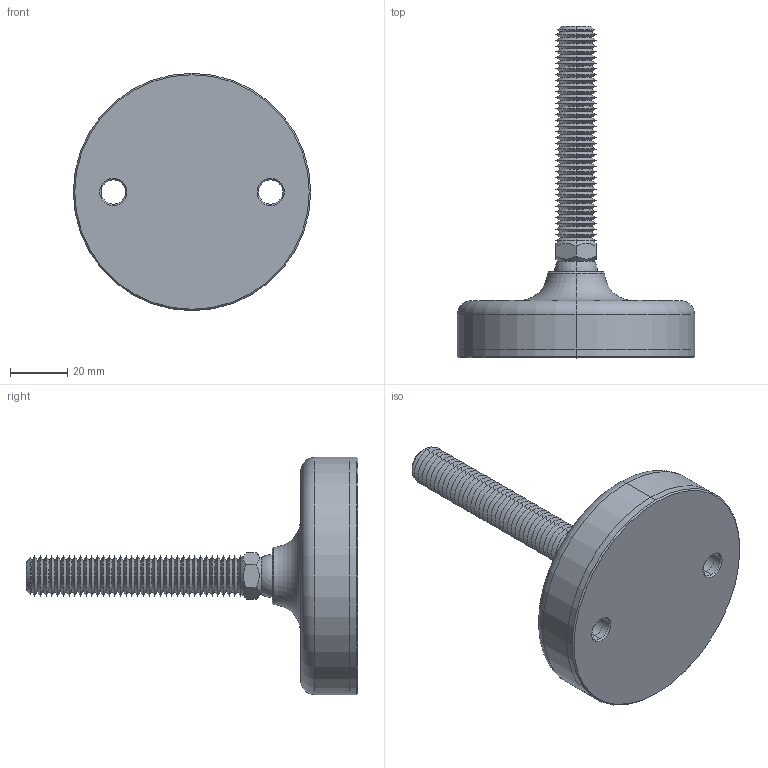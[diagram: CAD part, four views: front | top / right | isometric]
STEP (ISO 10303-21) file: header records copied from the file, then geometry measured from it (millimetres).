
FILE_DESCRIPTION (( 'STEP AP203' ), '1' );
FILE_NAME ('34724.W1401.step', '2019-11-28T22:09:42', ( '' ), ( '' ), 'SwSTEP 2.0', 'SolidWorks 2017', '' );
FILE_SCHEMA (( 'CONFIG_CONTROL_DESIGN' ));
Length unit declared in the file: millimetre
Products named in the file (4): Part1_34724.W1401; 34724.W1401; Part2_34724.W1401; Part3_34724.W1401
Assembly tree (3 placements, depth 2):
  34724.W1401
    Part1_34724.W1401
    Part2_34724.W1401
    Part3_34724.W1401
Bounding box: 83 x 116 x 83 mm (x, y, z)
Volume: 119982.5 mm3; surface area: 34131.3 mm2
Topology: 3 solids, 3 shells, 200 faces, 415 edges, 221 vertices
Faces by surface type: cone 166, plane 14, cylinder 12, sphere 4, torus 4
Entity records: 5658 total; most frequent: DIRECTION 1016, CARTESIAN_POINT 972, ORIENTED_EDGE 812, AXIS2_PLACEMENT_3D 416, EDGE_CURVE 406, VERTEX_POINT 216, EDGE_LOOP 212, CIRCLE 210
